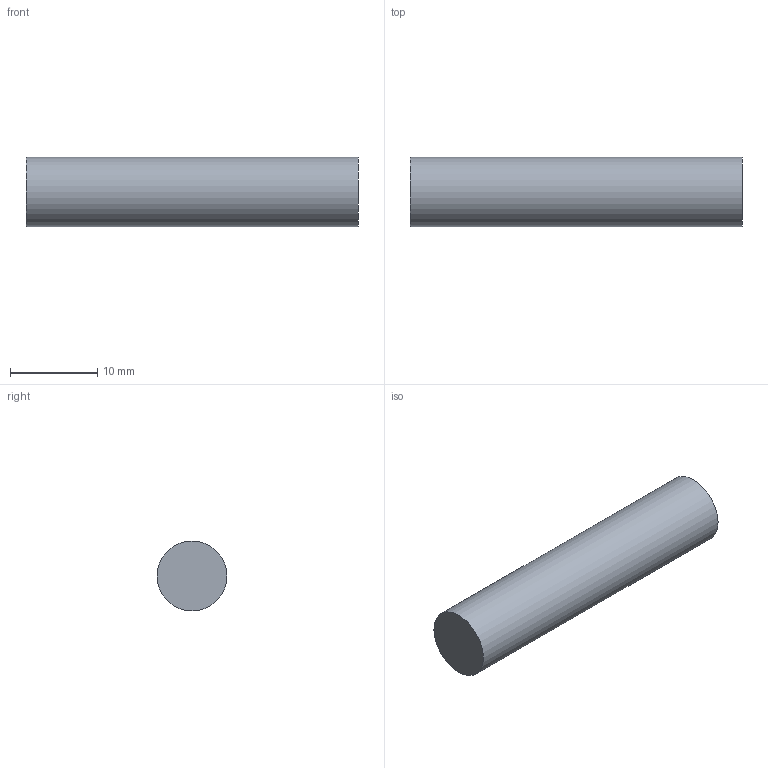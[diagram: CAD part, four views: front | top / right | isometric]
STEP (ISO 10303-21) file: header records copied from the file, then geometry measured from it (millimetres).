
FILE_DESCRIPTION(('Open CASCADE Model'),'2;1');
FILE_NAME('Open CASCADE Shape Model','2026-09-19T23:46:40',('Author'),( 'Open CASCADE'),'Open CASCADE STEP processor 7.9','Open CASCADE 7.9' ,'Unknown');
FILE_SCHEMA(('AUTOMOTIVE_DESIGN { 1 0 10303 214 1 1 1 1 }'));
Length unit declared in the file: millimetre
Products named in the file (1): Open CASCADE STEP translator 7.9 72
Bounding box: 38 x 8 x 8 mm (x, y, z)
Volume: 1910.1 mm3; surface area: 1055.6 mm2
Topology: 1 solids, 1 shells, 3 faces, 3 edges, 2 vertices
Faces by surface type: plane 2, cylinder 1
Full cylindrical faces by diameter (mm): 8 x1
Entity records: 108 total; most frequent: DIRECTION 19, CARTESIAN_POINT 15, AXIS2_PLACEMENT_3D 6, ORIENTED_EDGE 6, PCURVE 6, DEFINITIONAL_REPRESENTATION 6, LINE 5, VECTOR 5
